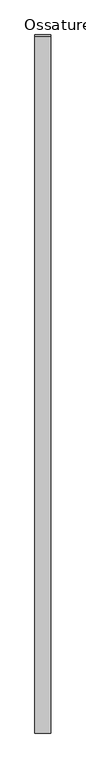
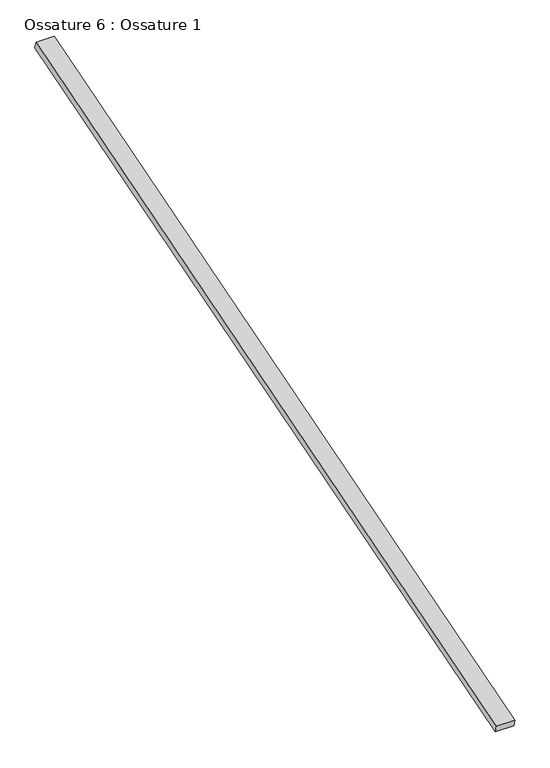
"""IFC4 building model written with IfcOpenShell, lengths in millimetres: beam geometry, Ossature 6 : Ossature 1."""

from ifc_helpers import new_model, si_unit, frame, origin, place, context, project, spatial, polyline, outline, extrude, source, transform, mapped, element, save


def ossature_6_ossature_1_6e9192e8(model_context):
    return source(origin(), model_context, "Body", "SweptSolid", [
        extrude(outline(polyline([(0.0, 0.0), (0.0, -4543.0299679), (-100.0, -4543.0299679), (-100.0, 0.0), (0.0, 0.0)])), frame((1742.4466393, -833.3913565, 8153.6336115), z_axis=(0.0, -0.28734788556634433, 0.9578262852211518), x_axis=(-1.0, 0.0, 0.0)), (0.0, 0.0, 1.0), 40.0),
    ])


if __name__ == "__main__":
    model = new_model("IFC4")
    model_context = context("Model", 3, world=origin())
    ifc_project = project(units=[si_unit("LENGTHUNIT", "METRE", prefix="MILLI")], contexts=[model_context])
    site = spatial("IfcSite", under=ifc_project)
    building = spatial("IfcBuilding", under=site)
    placement = place(None, origin())
    ossature_6_ossature_1_shape = ossature_6_ossature_1_6e9192e8(model_context)
    element("IfcBeam", 1, ObjectType="Ossature 6 : Ossature 1", at=placement, inside=building, context=model_context, shape_type="MappedRepresentation", body=[
        mapped(ossature_6_ossature_1_shape, transform((0.0, 0.0, 0.0), x_axis=(1.0, 0.0, 0.0), y_axis=(0.0, 1.0, 0.0), z_axis=(0.0, 0.0, 1.0))),
    ])
    save(model, "model.ifc")
